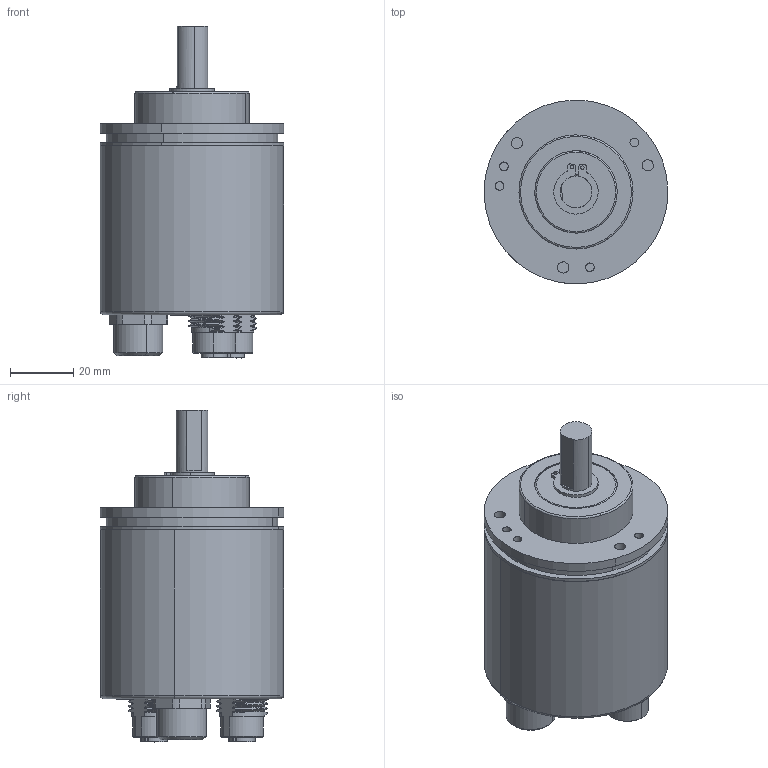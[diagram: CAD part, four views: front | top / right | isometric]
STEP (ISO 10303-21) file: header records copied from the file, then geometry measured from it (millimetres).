
FILE_DESCRIPTION (( 'STEP AP214' ), '1' );
FILE_NAME ('58B-PROFINET.STEP', '2022-06-22T09:55:55', ( '' ), ( '' ), 'SwSTEP 2.0', 'SolidWorks 2021', '' );
FILE_SCHEMA (( 'AUTOMOTIVE_DESIGN' ));
Length unit declared in the file: millimetre
Products named in the file (1): 58B-PROFINET
Bounding box: 58 x 58 x 104.7 mm (x, y, z)
Volume: 151063.4 mm3; surface area: 49700.6 mm2
Topology: 3 solids, 8 shells, 1113 faces, 2926 edges, 1858 vertices
Faces by surface type: plane 419, cylinder 379, bspline 204, cone 90, torus 21
Entity records: 55411 total; most frequent: CARTESIAN_POINT 30165, ORIENTED_EDGE 5792, DIRECTION 4424, EDGE_CURVE 2896, VERTEX_POINT 1858, AXIS2_PLACEMENT_3D 1614, EDGE_LOOP 1200, LINE 1196
